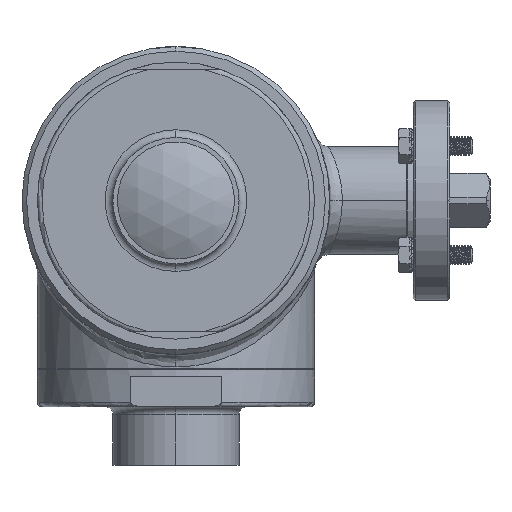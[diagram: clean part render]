
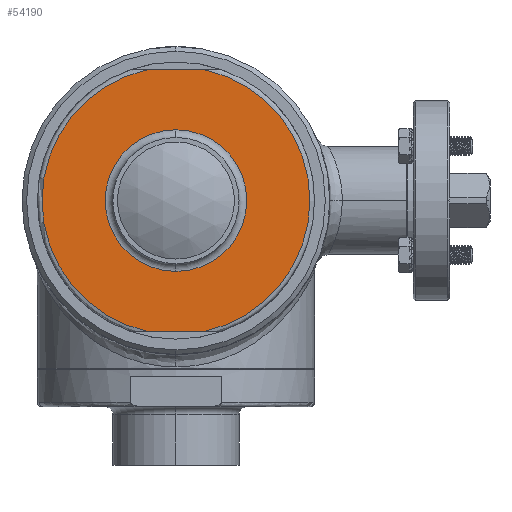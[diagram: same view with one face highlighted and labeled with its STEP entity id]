
A CAD part, front view. The second image highlights one B-rep face of the part: STEP entity #54190.
In plain terms, the highlighted planar face has unit normal (0, -1, 0).
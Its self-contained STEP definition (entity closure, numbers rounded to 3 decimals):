
#10535=CARTESIAN_POINT('',(9.274,-67.,-42.5));
#10559=CARTESIAN_POINT('',(0.,-67.,0.));
#10560=DIRECTION('',(0.,-1.,0.));
#10561=DIRECTION('',(0.213,0.,-0.977));
#10562=AXIS2_PLACEMENT_3D('',#10559,#10560,#10561);
#10567=CARTESIAN_POINT('',(9.274,-67.,42.5));
#10612=DIRECTION('',(-1.,0.,0.));
#10613=VECTOR('',#10612,18.547);
#10614=CARTESIAN_POINT('',(9.274,-67.,-42.5));
#10615=LINE('',#10614,#10613);
#10619=DIRECTION('',(-1.,0.,0.));
#10620=VECTOR('',#10619,18.547);
#10621=CARTESIAN_POINT('',(9.274,-67.,42.5));
#10622=LINE('',#10621,#10620);
#10626=CARTESIAN_POINT('',(0.,-67.,0.));
#10627=DIRECTION('',(0.,-1.,0.));
#10628=DIRECTION('',(0.,0.,1.));
#10629=AXIS2_PLACEMENT_3D('',#10626,#10627,#10628);
#10642=CARTESIAN_POINT('',(0.,-67.,0.));
#10643=DIRECTION('',(0.,-1.,0.));
#10644=DIRECTION('',(0.,0.,-1.));
#10645=AXIS2_PLACEMENT_3D('',#10642,#10643,#10644);
#10872=CARTESIAN_POINT('',(-9.274,-67.,42.5));
#10896=CARTESIAN_POINT('',(0.,-67.,0.));
#10897=DIRECTION('',(0.,-1.,0.));
#10898=DIRECTION('',(-0.213,0.,0.977));
#10899=AXIS2_PLACEMENT_3D('',#10896,#10897,#10898);
#10904=CARTESIAN_POINT('',(-9.274,-67.,-42.5));
#46304=CARTESIAN_POINT('',(0.,-67.,23.));
#46305=CARTESIAN_POINT('',(0.,-67.,-23.));
#46306=VERTEX_POINT('',#46304);
#46307=VERTEX_POINT('',#46305);
#46324=VERTEX_POINT('',#10904);
#46327=VERTEX_POINT('',#10872);
#46332=VERTEX_POINT('',#10567);
#46335=VERTEX_POINT('',#10535);
#54171=CARTESIAN_POINT('',(0.,-67.,0.));
#54172=DIRECTION('',(0.,-1.,0.));
#54173=DIRECTION('',(-1.,0.,0.));
#54174=AXIS2_PLACEMENT_3D('',#54171,#54172,#54173);
#54175=PLANE('',#54174);
#54176=ORIENTED_EDGE('',*,*,#54159,.T.);
#54178=ORIENTED_EDGE('',*,*,#54177,.F.);
#54180=ORIENTED_EDGE('',*,*,#54179,.F.);
#54181=ORIENTED_EDGE('',*,*,#54147,.F.);
#54182=EDGE_LOOP('',(#54176,#54178,#54180,#54181));
#54183=FACE_OUTER_BOUND('',#54182,.F.);
#54185=ORIENTED_EDGE('',*,*,#54184,.T.);
#54187=ORIENTED_EDGE('',*,*,#54186,.T.);
#54188=EDGE_LOOP('',(#54185,#54187));
#54189=FACE_BOUND('',#54188,.F.);
#54190=ADVANCED_FACE('',(#54183,#54189),#54175,.T.);
#10563=CIRCLE('',#10562,43.5);
#10630=CIRCLE('',#10629,23.);
#10646=CIRCLE('',#10645,23.);
#10900=CIRCLE('',#10899,43.5);
#54147=EDGE_CURVE('',#46335,#46332,#10563,.T.);
#54159=EDGE_CURVE('',#46335,#46324,#10615,.T.);
#54177=EDGE_CURVE('',#46327,#46324,#10900,.T.);
#54179=EDGE_CURVE('',#46332,#46327,#10622,.T.);
#54184=EDGE_CURVE('',#46306,#46307,#10630,.T.);
#54186=EDGE_CURVE('',#46307,#46306,#10646,.T.);
